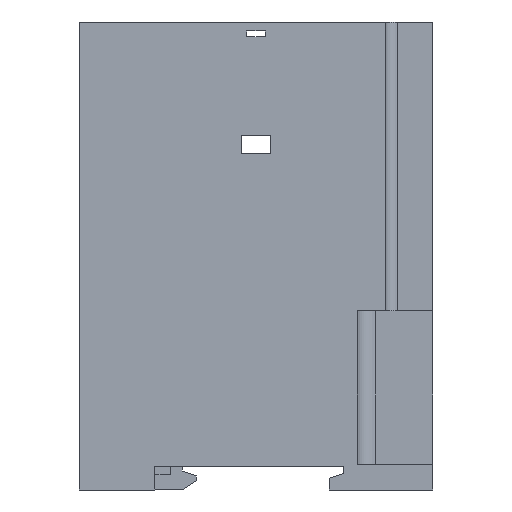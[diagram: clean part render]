
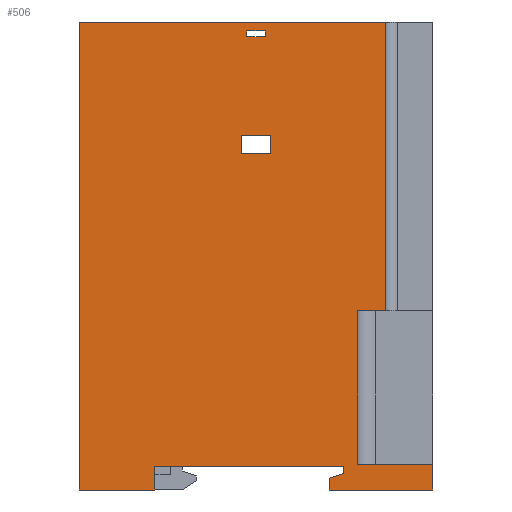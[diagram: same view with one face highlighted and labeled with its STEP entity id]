
A CAD part, left-side view. The second image highlights one B-rep face of the part: STEP entity #506.
In plain terms, the highlighted planar face has unit normal (-1, 0, 0).
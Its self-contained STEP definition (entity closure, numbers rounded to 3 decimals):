
#506=ADVANCED_FACE('',(#19149,#19151,#19153),#19155,.T.);
#19149=FACE_BOUND('',#19150,.T.);
#19150=EDGE_LOOP('',(#33938,#33939,#33940,#33941,#33942,#33943,#33944,#33945,#33946,
#33947,#33948,#33949,#33950,#33951));
#19151=FACE_BOUND('',#19152,.T.);
#19152=EDGE_LOOP('',(#33952,#33953,#33954,#33955));
#19153=FACE_BOUND('',#19154,.T.);
#19154=EDGE_LOOP('',(#33956,#33957,#33958,#33959));
#19155=PLANE('',#19156);
#19156=AXIS2_PLACEMENT_3D('',#19157,#19158,#19159);
#19157=CARTESIAN_POINT('',(-45.,0.,0.));
#19158=DIRECTION('',(-1.,0.,0.));
#19159=DIRECTION('',(0.,-1.,0.));
#33938=ORIENTED_EDGE('',*,*,#43663,.T.);
#33939=ORIENTED_EDGE('',*,*,#43664,.T.);
#33940=ORIENTED_EDGE('',*,*,#43665,.T.);
#33941=ORIENTED_EDGE('',*,*,#43666,.T.);
#33942=ORIENTED_EDGE('',*,*,#43667,.T.);
#33943=ORIENTED_EDGE('',*,*,#43668,.T.);
#33944=ORIENTED_EDGE('',*,*,#43669,.T.);
#33945=ORIENTED_EDGE('',*,*,#43670,.F.);
#33946=ORIENTED_EDGE('',*,*,#43597,.F.);
#33947=ORIENTED_EDGE('',*,*,#43671,.T.);
#33948=ORIENTED_EDGE('',*,*,#43672,.T.);
#33949=ORIENTED_EDGE('',*,*,#43571,.T.);
#33950=ORIENTED_EDGE('',*,*,#43661,.T.);
#33951=ORIENTED_EDGE('',*,*,#43673,.T.);
#33952=ORIENTED_EDGE('',*,*,#43674,.T.);
#33953=ORIENTED_EDGE('',*,*,#43675,.T.);
#33954=ORIENTED_EDGE('',*,*,#43676,.T.);
#33955=ORIENTED_EDGE('',*,*,#43677,.T.);
#33956=ORIENTED_EDGE('',*,*,#43678,.T.);
#33957=ORIENTED_EDGE('',*,*,#43679,.T.);
#33958=ORIENTED_EDGE('',*,*,#43680,.T.);
#33959=ORIENTED_EDGE('',*,*,#43681,.T.);
#43571=EDGE_CURVE('',#48545,#48543,#48546,.T.);
#43597=EDGE_CURVE('',#48583,#48585,#48586,.T.);
#43661=EDGE_CURVE('',#48543,#48702,#48703,.F.);
#43663=EDGE_CURVE('',#48705,#48706,#48707,.F.);
#43664=EDGE_CURVE('',#48706,#48708,#48709,.T.);
#43665=EDGE_CURVE('',#48708,#48710,#48711,.T.);
#43666=EDGE_CURVE('',#48710,#48712,#48713,.T.);
#43667=EDGE_CURVE('',#48712,#48714,#48715,.F.);
#43668=EDGE_CURVE('',#48714,#48716,#48717,.F.);
#43669=EDGE_CURVE('',#48716,#48718,#48719,.F.);
#43670=EDGE_CURVE('',#48585,#48718,#48720,.T.);
#43671=EDGE_CURVE('',#48583,#48721,#48722,.T.);
#43672=EDGE_CURVE('',#48721,#48545,#48723,.F.);
#43673=EDGE_CURVE('',#48702,#48705,#48724,.F.);
#43674=EDGE_CURVE('',#48725,#48726,#48727,.F.);
#43675=EDGE_CURVE('',#48726,#48728,#48729,.F.);
#43676=EDGE_CURVE('',#48728,#48730,#48731,.F.);
#43677=EDGE_CURVE('',#48730,#48725,#48732,.F.);
#43678=EDGE_CURVE('',#48733,#48734,#48735,.F.);
#43679=EDGE_CURVE('',#48734,#48736,#48737,.F.);
#43680=EDGE_CURVE('',#48736,#48738,#48739,.F.);
#43681=EDGE_CURVE('',#48738,#48733,#48740,.F.);
#48543=VERTEX_POINT('',#57027);
#48545=VERTEX_POINT('',#57031);
#48546=LINE('',#57032,#57033);
#48583=VERTEX_POINT('',#57119);
#48585=VERTEX_POINT('',#57123);
#48586=LINE('',#57124,#57125);
#48702=VERTEX_POINT('',#57368);
#48703=LINE('',#57369,#57370);
#48705=VERTEX_POINT('',#57375);
#48706=VERTEX_POINT('',#57376);
#48707=LINE('',#57377,#57378);
#48708=VERTEX_POINT('',#57380);
#48709=LINE('',#57381,#57382);
#48710=VERTEX_POINT('',#57384);
#48711=LINE('',#57385,#57386);
#48712=VERTEX_POINT('',#57388);
#48713=LINE('',#57389,#57390);
#48714=VERTEX_POINT('',#57392);
#48715=LINE('',#57393,#57394);
#48716=VERTEX_POINT('',#57396);
#48717=LINE('',#57397,#57398);
#48718=VERTEX_POINT('',#57400);
#48719=LINE('',#57401,#57402);
#48720=LINE('',#57404,#57405);
#48721=VERTEX_POINT('',#57407);
#48722=LINE('',#57408,#57409);
#48723=LINE('',#57411,#57412);
#48724=LINE('',#57414,#57415);
#48725=VERTEX_POINT('',#57417);
#48726=VERTEX_POINT('',#57418);
#48727=LINE('',#57419,#57420);
#48728=VERTEX_POINT('',#57422);
#48729=LINE('',#57423,#57424);
#48730=VERTEX_POINT('',#57426);
#48731=LINE('',#57427,#57428);
#48732=LINE('',#57430,#57431);
#48733=VERTEX_POINT('',#57433);
#48734=VERTEX_POINT('',#57434);
#48735=LINE('',#57435,#57436);
#48736=VERTEX_POINT('',#57438);
#48737=LINE('',#57439,#57440);
#48738=VERTEX_POINT('',#57442);
#48739=LINE('',#57443,#57444);
#48740=LINE('',#57446,#57447);
#57027=CARTESIAN_POINT('',(-45.,-56.,5.005));
#57031=CARTESIAN_POINT('',(-45.,-16.,5.005));
#57032=CARTESIAN_POINT('',(-45.,-16.,5.005));
#57033=VECTOR('',#57034,1.);
#57034=DIRECTION('',(0.,-1.,0.));
#57119=CARTESIAN_POINT('',(-45.,0.,0.));
#57123=CARTESIAN_POINT('',(-45.,0.,99.2));
#57124=CARTESIAN_POINT('',(-45.,0.,0.));
#57125=VECTOR('',#57126,1.);
#57126=DIRECTION('',(0.,0.,1.));
#57368=CARTESIAN_POINT('',(-45.,-56.,3.505));
#57369=CARTESIAN_POINT('',(-45.,-56.,3.505));
#57370=VECTOR('',#57371,1.);
#57371=DIRECTION('',(0.,0.,1.));
#57375=CARTESIAN_POINT('',(-45.,-53.,2.505));
#57376=CARTESIAN_POINT('',(-45.,-53.,0.));
#57377=CARTESIAN_POINT('',(-45.,-53.,0.));
#57378=VECTOR('',#57379,1.);
#57379=DIRECTION('',(0.,0.,1.));
#57380=CARTESIAN_POINT('',(-45.,-75.,0.));
#57381=CARTESIAN_POINT('',(-45.,-53.,0.));
#57382=VECTOR('',#57383,1.);
#57383=DIRECTION('',(0.,-1.,0.));
#57384=CARTESIAN_POINT('',(-45.,-75.,5.5));
#57385=CARTESIAN_POINT('',(-45.,-75.,0.));
#57386=VECTOR('',#57387,1.);
#57387=DIRECTION('',(0.,0.,1.));
#57388=CARTESIAN_POINT('',(-45.,-59.,5.5));
#57389=CARTESIAN_POINT('',(-45.,-75.,5.5));
#57390=VECTOR('',#57391,1.);
#57391=DIRECTION('',(0.,1.,0.));
#57392=CARTESIAN_POINT('',(-45.,-59.,38.));
#57393=CARTESIAN_POINT('',(-45.,-59.,38.));
#57394=VECTOR('',#57395,1.);
#57395=DIRECTION('',(0.,0.,-1.));
#57396=CARTESIAN_POINT('',(-45.,-65.,38.));
#57397=CARTESIAN_POINT('',(-45.,-65.,38.));
#57398=VECTOR('',#57399,1.);
#57399=DIRECTION('',(0.,1.,0.));
#57400=CARTESIAN_POINT('',(-45.,-65.,99.2));
#57401=CARTESIAN_POINT('',(-45.,-65.,99.2));
#57402=VECTOR('',#57403,1.);
#57403=DIRECTION('',(0.,0.,-1.));
#57404=CARTESIAN_POINT('',(-45.,0.,99.2));
#57405=VECTOR('',#57406,1.);
#57406=DIRECTION('',(0.,-1.,0.));
#57407=CARTESIAN_POINT('',(-45.,-16.,0.));
#57408=CARTESIAN_POINT('',(-45.,0.,0.));
#57409=VECTOR('',#57410,1.);
#57410=DIRECTION('',(0.,-1.,0.));
#57411=CARTESIAN_POINT('',(-45.,-16.,5.005));
#57412=VECTOR('',#57413,1.);
#57413=DIRECTION('',(0.,0.,-1.));
#57414=CARTESIAN_POINT('',(-45.,-53.,2.505));
#57415=VECTOR('',#57416,1.);
#57416=DIRECTION('',(0.,-0.949,0.316));
#57417=CARTESIAN_POINT('',(-45.,-40.6,75.3));
#57418=CARTESIAN_POINT('',(-45.,-40.6,71.3));
#57419=CARTESIAN_POINT('',(-45.,-40.6,71.3));
#57420=VECTOR('',#57421,1.);
#57421=DIRECTION('',(0.,0.,1.));
#57422=CARTESIAN_POINT('',(-45.,-34.4,71.3));
#57423=CARTESIAN_POINT('',(-45.,-34.4,71.3));
#57424=VECTOR('',#57425,1.);
#57425=DIRECTION('',(0.,-1.,0.));
#57426=CARTESIAN_POINT('',(-45.,-34.4,75.3));
#57427=CARTESIAN_POINT('',(-45.,-34.4,75.3));
#57428=VECTOR('',#57429,1.);
#57429=DIRECTION('',(0.,0.,-1.));
#57430=CARTESIAN_POINT('',(-45.,-40.6,75.3));
#57431=VECTOR('',#57432,1.);
#57432=DIRECTION('',(0.,1.,0.));
#57433=CARTESIAN_POINT('',(-45.,-39.5,96.2));
#57434=CARTESIAN_POINT('',(-45.,-35.5,96.2));
#57435=CARTESIAN_POINT('',(-45.,-35.5,96.2));
#57436=VECTOR('',#57437,1.);
#57437=DIRECTION('',(0.,-1.,0.));
#57438=CARTESIAN_POINT('',(-45.,-35.5,97.4));
#57439=CARTESIAN_POINT('',(-45.,-35.5,97.4));
#57440=VECTOR('',#57441,1.);
#57441=DIRECTION('',(0.,0.,-1.));
#57442=CARTESIAN_POINT('',(-45.,-39.5,97.4));
#57443=CARTESIAN_POINT('',(-45.,-39.5,97.4));
#57444=VECTOR('',#57445,1.);
#57445=DIRECTION('',(0.,1.,0.));
#57446=CARTESIAN_POINT('',(-45.,-39.5,96.2));
#57447=VECTOR('',#57448,1.);
#57448=DIRECTION('',(0.,0.,1.));
